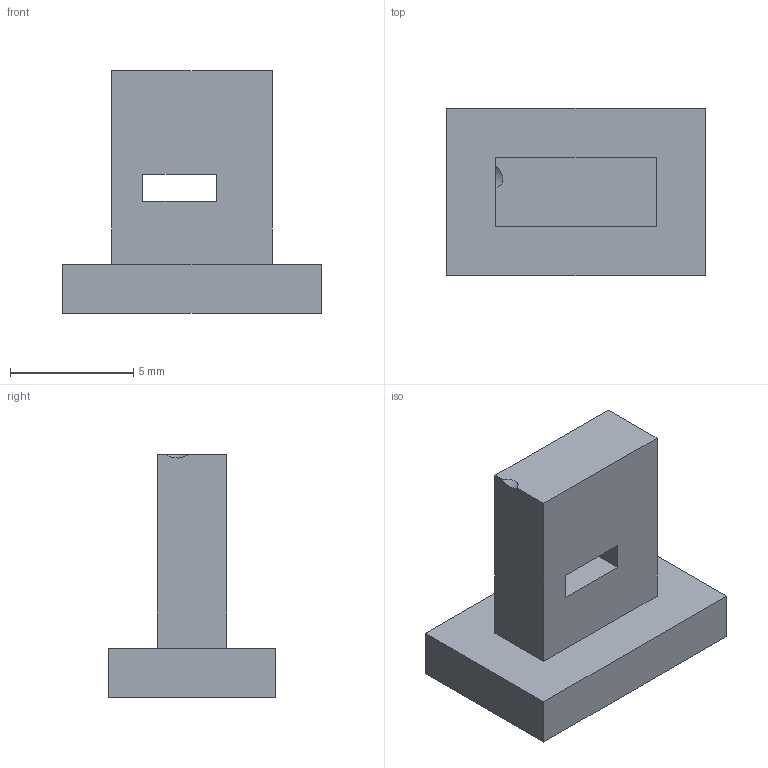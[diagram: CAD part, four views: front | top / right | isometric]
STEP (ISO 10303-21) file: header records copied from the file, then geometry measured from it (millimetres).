
FILE_DESCRIPTION(('Open CASCADE Model'),'2;1');
FILE_NAME('Open CASCADE Shape Model','2026-09-15T14:28:42',('Author'),( 'Open CASCADE'),'Open CASCADE STEP processor 7.7','Open CASCADE 7.7' ,'Unknown');
FILE_SCHEMA(('AUTOMOTIVE_DESIGN { 1 0 10303 214 1 1 1 1 }'));
Length unit declared in the file: millimetre
Products named in the file (1): COMPOUND
Bounding box: 10.5 x 6.8 x 9.85 mm (x, y, z)
Volume: 276.4 mm3; surface area: 374.3 mm2
Topology: 1 solids, 1 shells, 16 faces, 39 edges, 26 vertices
Faces by surface type: plane 15, cylinder 1
Entity records: 1003 total; most frequent: CARTESIAN_POINT 181, DIRECTION 151, LINE 111, VECTOR 111, ORIENTED_EDGE 78, PCURVE 78, DEFINITIONAL_REPRESENTATION 78, EDGE_CURVE 39
